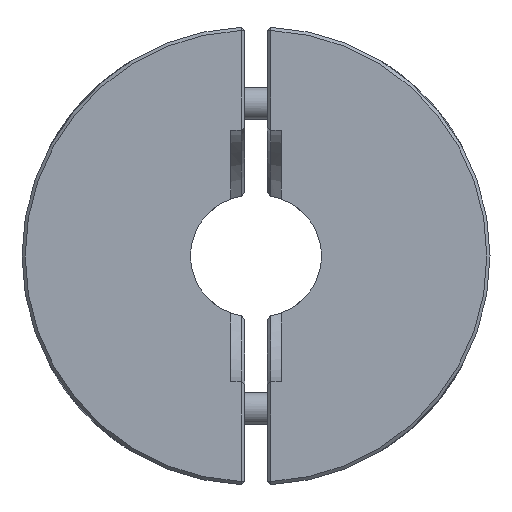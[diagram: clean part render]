
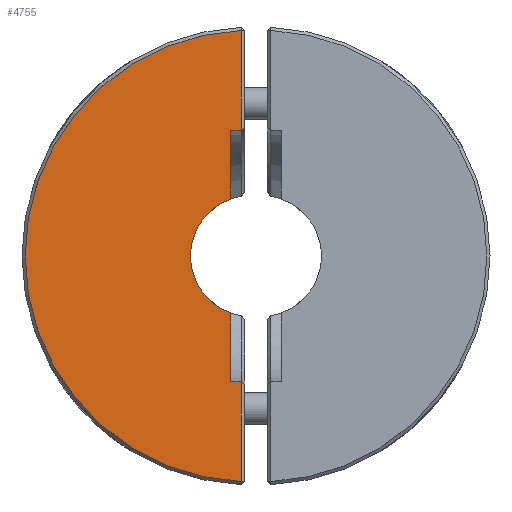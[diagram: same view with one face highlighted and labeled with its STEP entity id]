
A CAD part, front view. The second image highlights one B-rep face of the part: STEP entity #4755.
In plain terms, the highlighted planar face has unit normal (0, -1, 0).
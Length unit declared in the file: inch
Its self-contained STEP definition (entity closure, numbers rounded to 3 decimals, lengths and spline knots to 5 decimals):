
#58 = LINE ( 'NONE', #6838, #6886 ) ;
#87 = DIRECTION ( 'NONE',  ( 0., 0., 1. ) ) ;
#305 = VECTOR ( 'NONE', #87, 39.37008 ) ;
#330 = VERTEX_POINT ( 'NONE', #7004 ) ;
#333 = DIRECTION ( 'NONE',  ( 1., 0., 0. ) ) ;
#648 = ORIENTED_EDGE ( 'NONE', *, *, #3250, .F. ) ;
#796 = ORIENTED_EDGE ( 'NONE', *, *, #4663, .T. ) ;
#828 = DIRECTION ( 'NONE',  ( 0., 0., -1. ) ) ;
#836 = EDGE_CURVE ( 'NONE', #2657, #7152, #5804, .T. ) ;
#903 = CARTESIAN_POINT ( 'NONE',  ( -1.23586, -1.25, -0.2 ) ) ;
#920 = AXIS2_PLACEMENT_3D ( 'NONE', #5080, #2821, #3647 ) ;
#924 = FACE_OUTER_BOUND ( 'NONE', #1564, .T. ) ;
#1215 = DIRECTION ( 'NONE',  ( 0., 0., 1. ) ) ;
#1344 = ORIENTED_EDGE ( 'NONE', *, *, #5529, .T. ) ;
#1564 = EDGE_LOOP ( 'NONE', ( #7379, #3197, #1344, #796, #6948, #648, #9273, #4358 ) ) ;
#1751 = VECTOR ( 'NONE', #5774, 39.37008 ) ;
#2245 = CARTESIAN_POINT ( 'NONE',  ( 1.23586, -1.25, -0.09375 ) ) ;
#2258 = CARTESIAN_POINT ( 'NONE',  ( 0., -1.25, 0. ) ) ;
#2407 = DIRECTION ( 'NONE',  ( -1., 0., 0. ) ) ;
#2411 = CARTESIAN_POINT ( 'NONE',  ( -1.23586, -1.25, -0.2 ) ) ;
#2425 = CARTESIAN_POINT ( 'NONE',  ( 2.21677, -1.25, -0.09375 ) ) ;
#2610 = CARTESIAN_POINT ( 'NONE',  ( 0.55905, -1.25, -0.2 ) ) ;
#2624 = DIRECTION ( 'NONE',  ( 0., 1., 0. ) ) ;
#2654 = CARTESIAN_POINT ( 'NONE',  ( 1.23586, -1.25, -0.2 ) ) ;
#2657 = VERTEX_POINT ( 'NONE', #5110 ) ;
#2821 = DIRECTION ( 'NONE',  ( 0., -1., 0. ) ) ;
#3197 = ORIENTED_EDGE ( 'NONE', *, *, #4766, .T. ) ;
#3250 = EDGE_CURVE ( 'NONE', #5827, #2657, #7043, .T. ) ;
#3647 = DIRECTION ( 'NONE',  ( 0., 0., -1. ) ) ;
#3927 = PLANE ( 'NONE',  #5638 ) ;
#4077 = CARTESIAN_POINT ( 'NONE',  ( -0.55905, -1.25, -0.2 ) ) ;
#4358 = ORIENTED_EDGE ( 'NONE', *, *, #8099, .F. ) ;
#4367 = VERTEX_POINT ( 'NONE', #903 ) ;
#4396 = EDGE_CURVE ( 'NONE', #5827, #5813, #8618, .T. ) ;
#4663 = EDGE_CURVE ( 'NONE', #6466, #7152, #5416, .T. ) ;
#4665 = CARTESIAN_POINT ( 'NONE',  ( 1.23586, -1.25, -0.09375 ) ) ;
#4755 = ADVANCED_FACE ( 'NONE', ( #924 ), #3927, .T. ) ;
#4766 = EDGE_CURVE ( 'NONE', #7549, #330, #58, .T. ) ;
#5080 = CARTESIAN_POINT ( 'NONE',  ( 0., -1.25, 0. ) ) ;
#5110 = CARTESIAN_POINT ( 'NONE',  ( 1.23586, -1.25, -0.2 ) ) ;
#5269 = DIRECTION ( 'NONE',  ( 0., -1., 0. ) ) ;
#5416 = LINE ( 'NONE', #4665, #9391 ) ;
#5529 = EDGE_CURVE ( 'NONE', #330, #6466, #9091, .T. ) ;
#5623 = LINE ( 'NONE', #7258, #1751 ) ;
#5638 = AXIS2_PLACEMENT_3D ( 'NONE', #2258, #5269, #828 ) ;
#5774 = DIRECTION ( 'NONE',  ( 1., 0., 0. ) ) ;
#5804 = LINE ( 'NONE', #2654, #8287 ) ;
#5813 = VERTEX_POINT ( 'NONE', #4077 ) ;
#5827 = VERTEX_POINT ( 'NONE', #2610 ) ;
#6397 = CARTESIAN_POINT ( 'NONE',  ( -1.23586, -1.25, -0.2 ) ) ;
#6466 = VERTEX_POINT ( 'NONE', #2425 ) ;
#6797 = DIRECTION ( 'NONE',  ( -1., 0., 0. ) ) ;
#6838 = CARTESIAN_POINT ( 'NONE',  ( -2.24913, -1.25, -0.09375 ) ) ;
#6882 = AXIS2_PLACEMENT_3D ( 'NONE', #7260, #2624, #7835 ) ;
#6886 = VECTOR ( 'NONE', #2407, 39.37008 ) ;
#6948 = ORIENTED_EDGE ( 'NONE', *, *, #836, .F. ) ;
#7004 = CARTESIAN_POINT ( 'NONE',  ( -2.21677, -1.25, -0.09375 ) ) ;
#7043 = LINE ( 'NONE', #2411, #9044 ) ;
#7094 = EDGE_CURVE ( 'NONE', #4367, #7549, #9566, .T. ) ;
#7152 = VERTEX_POINT ( 'NONE', #2245 ) ;
#7258 = CARTESIAN_POINT ( 'NONE',  ( -1.23586, -1.25, -0.2 ) ) ;
#7260 = CARTESIAN_POINT ( 'NONE',  ( 0., -1.25, 0. ) ) ;
#7310 = CARTESIAN_POINT ( 'NONE',  ( -1.23586, -1.25, -0.09375 ) ) ;
#7379 = ORIENTED_EDGE ( 'NONE', *, *, #7094, .T. ) ;
#7549 = VERTEX_POINT ( 'NONE', #7310 ) ;
#7835 = DIRECTION ( 'NONE',  ( 0., 0., 1. ) ) ;
#8099 = EDGE_CURVE ( 'NONE', #4367, #5813, #5623, .T. ) ;
#8287 = VECTOR ( 'NONE', #1215, 39.37008 ) ;
#8618 = CIRCLE ( 'NONE', #6882, 0.59375 ) ;
#9044 = VECTOR ( 'NONE', #333, 39.37008 ) ;
#9091 = CIRCLE ( 'NONE', #920, 2.21875 ) ;
#9273 = ORIENTED_EDGE ( 'NONE', *, *, #4396, .T. ) ;
#9391 = VECTOR ( 'NONE', #6797, 39.37008 ) ;
#9566 = LINE ( 'NONE', #6397, #305 ) ;
